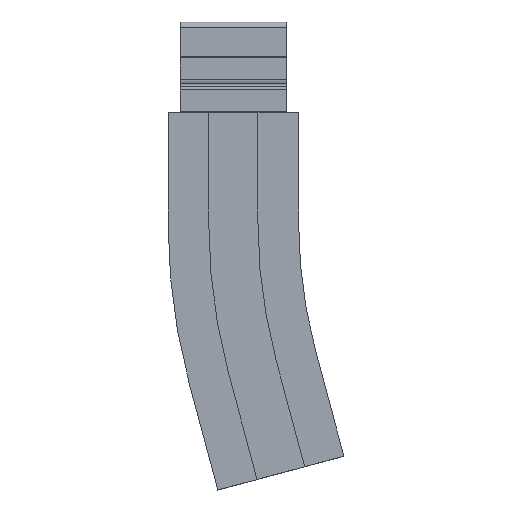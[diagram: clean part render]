
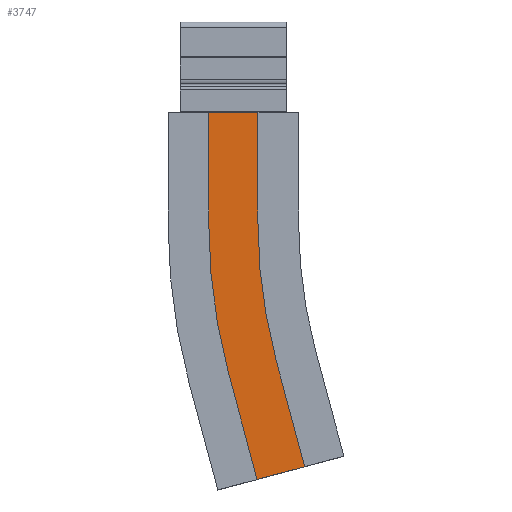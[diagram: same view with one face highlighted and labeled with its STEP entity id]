
A CAD part, front view. The second image highlights one B-rep face of the part: STEP entity #3747.
In plain terms, the highlighted planar face has unit normal (0, -1, 0).
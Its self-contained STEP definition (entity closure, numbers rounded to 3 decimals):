
#1003 = EDGE_LOOP ( 'NONE', ( #12369, #12370, #12371, #12372, #12373, #12374, #12375, #12376 ) ) ;
#3747 = ADVANCED_FACE ( 'NONE', ( #11143 ), #8332, .T. ) ;
#3910 = AXIS2_PLACEMENT_3D ( 'NONE', #12590, #12591, #12592 ) ;
#3911 = AXIS2_PLACEMENT_3D ( 'NONE', #12595, #12596, #12597 ) ;
#4412 = AXIS2_PLACEMENT_3D ( 'NONE', #8331, #8330, #8329 ) ;
#5867 = CARTESIAN_POINT ( 'NONE',  ( -59.333, -43.722, -22.167 ) ) ;
#5947 = CARTESIAN_POINT ( 'NONE',  ( -150.898, -43.722, 56.826 ) ) ;
#5951 = CARTESIAN_POINT ( 'NONE',  ( -125.016, -43.722, -39.767 ) ) ;
#6002 = CARTESIAN_POINT ( 'NONE',  ( -85.215, -43.722, 74.426 ) ) ;
#6009 = CARTESIAN_POINT ( 'NONE',  ( -169.094, -43.722, 195.035 ) ) ;
#6190 = CARTESIAN_POINT ( 'NONE',  ( -101.094, -43.722, 295.035 ) ) ;
#6196 = CARTESIAN_POINT ( 'NONE',  ( -101.094, -43.722, 195.035 ) ) ;
#6201 = CARTESIAN_POINT ( 'NONE',  ( -169.094, -43.722, 295.035 ) ) ;
#6824 = VECTOR ( 'NONE', #12661, 1000. ) ;
#6825 = LINE ( 'NONE', #12660, #6824 ) ;
#6838 = VECTOR ( 'NONE', #12649, 1000. ) ;
#6839 = LINE ( 'NONE', #12648, #6838 ) ;
#6893 = VECTOR ( 'NONE', #12601, 1000. ) ;
#6894 = LINE ( 'NONE', #12600, #6893 ) ;
#6895 = VECTOR ( 'NONE', #12599, 1000. ) ;
#6896 = CIRCLE ( 'NONE', #3911, 466. ) ;
#6897 = LINE ( 'NONE', #12598, #6895 ) ;
#6899 = VECTOR ( 'NONE', #12594, 1000. ) ;
#6900 = CIRCLE ( 'NONE', #3910, 534. ) ;
#6901 = LINE ( 'NONE', #12593, #6899 ) ;
#6903 = VECTOR ( 'NONE', #12589, 1000. ) ;
#6906 = LINE ( 'NONE', #12588, #6903 ) ;
#8329 = DIRECTION ( 'NONE',  ( -0.966, 0., -0.259 ) ) ;
#8330 = DIRECTION ( 'NONE',  ( 0., -1., 0. ) ) ;
#8331 = CARTESIAN_POINT ( 'NONE',  ( -85.215, -43.722, 74.426 ) ) ;
#8332 = PLANE ( 'NONE',  #4412 ) ;
#11143 = FACE_OUTER_BOUND ( 'NONE', #1003, .T. ) ;
#12369 = ORIENTED_EDGE ( 'NONE', *, *, #15508, .F. ) ;
#12370 = ORIENTED_EDGE ( 'NONE', *, *, #15509, .F. ) ;
#12371 = ORIENTED_EDGE ( 'NONE', *, *, #15507, .T. ) ;
#12372 = ORIENTED_EDGE ( 'NONE', *, *, #15531, .T. ) ;
#12373 = ORIENTED_EDGE ( 'NONE', *, *, #15506, .T. ) ;
#12374 = ORIENTED_EDGE ( 'NONE', *, *, #15537, .F. ) ;
#12375 = ORIENTED_EDGE ( 'NONE', *, *, #15505, .F. ) ;
#12376 = ORIENTED_EDGE ( 'NONE', *, *, #15504, .T. ) ;
#12588 = CARTESIAN_POINT ( 'NONE',  ( -150.898, -43.722, 56.826 ) ) ;
#12589 = DIRECTION ( 'NONE',  ( 0.259, 0., -0.966 ) ) ;
#12590 = CARTESIAN_POINT ( 'NONE',  ( 364.906, -43.722, 195.035 ) ) ;
#12591 = DIRECTION ( 'NONE',  ( 0., 1., 0. ) ) ;
#12592 = DIRECTION ( 'NONE',  ( -0.259, 0., 0.966 ) ) ;
#12593 = CARTESIAN_POINT ( 'NONE',  ( -101.094, -43.722, 295.035 ) ) ;
#12594 = DIRECTION ( 'NONE',  ( -1., 0., 0. ) ) ;
#12595 = CARTESIAN_POINT ( 'NONE',  ( 364.906, -43.722, 195.035 ) ) ;
#12596 = DIRECTION ( 'NONE',  ( 0., 1., 0. ) ) ;
#12597 = DIRECTION ( 'NONE',  ( -0.259, 0., 0.966 ) ) ;
#12598 = CARTESIAN_POINT ( 'NONE',  ( -59.333, -43.722, -22.167 ) ) ;
#12599 = DIRECTION ( 'NONE',  ( -0.966, 0., -0.259 ) ) ;
#12600 = CARTESIAN_POINT ( 'NONE',  ( -85.215, -43.722, 74.426 ) ) ;
#12601 = DIRECTION ( 'NONE',  ( 0.259, 0., -0.966 ) ) ;
#12648 = CARTESIAN_POINT ( 'NONE',  ( -101.094, -43.722, 195.035 ) ) ;
#12649 = DIRECTION ( 'NONE',  ( 0., 0., 1. ) ) ;
#12660 = CARTESIAN_POINT ( 'NONE',  ( -169.094, -43.722, 195.035 ) ) ;
#12661 = DIRECTION ( 'NONE',  ( 0., 0., 1. ) ) ;
#13434 = VERTEX_POINT ( 'NONE', #5867 ) ;
#13514 = VERTEX_POINT ( 'NONE', #5947 ) ;
#13518 = VERTEX_POINT ( 'NONE', #5951 ) ;
#13569 = VERTEX_POINT ( 'NONE', #6002 ) ;
#13576 = VERTEX_POINT ( 'NONE', #6009 ) ;
#13757 = VERTEX_POINT ( 'NONE', #6190 ) ;
#13763 = VERTEX_POINT ( 'NONE', #6196 ) ;
#13768 = VERTEX_POINT ( 'NONE', #6201 ) ;
#15504 = EDGE_CURVE ( 'NONE', #13514, #13518, #6906, .T. ) ;
#15505 = EDGE_CURVE ( 'NONE', #13514, #13576, #6900, .T. ) ;
#15506 = EDGE_CURVE ( 'NONE', #13757, #13768, #6901, .T. ) ;
#15507 = EDGE_CURVE ( 'NONE', #13569, #13763, #6896, .T. ) ;
#15508 = EDGE_CURVE ( 'NONE', #13434, #13518, #6897, .T. ) ;
#15509 = EDGE_CURVE ( 'NONE', #13569, #13434, #6894, .T. ) ;
#15531 = EDGE_CURVE ( 'NONE', #13763, #13757, #6839, .T. ) ;
#15537 = EDGE_CURVE ( 'NONE', #13576, #13768, #6825, .T. ) ;
